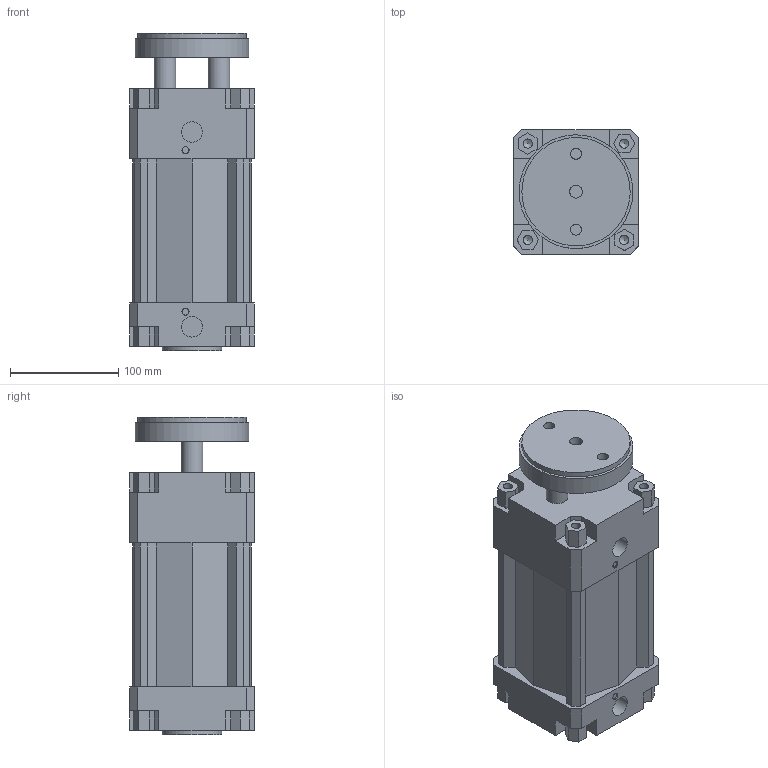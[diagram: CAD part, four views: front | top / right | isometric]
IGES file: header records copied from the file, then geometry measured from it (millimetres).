
Global section: file name: 134#_100_0075_01; native system: Autodesk Inventor 2014; preprocessor: unknown; author: A. Manieri; date: 20161006.165252; units: millimetre
Bounding box: 115 x 115 x 293 mm (x, y, z)
Volume: 2338568.8 mm3; surface area: 298587.6 mm2
Topology: 2 solids, 2 shells, 180 faces, 491 edges, 335 vertices
Faces by surface type: bspline 180
